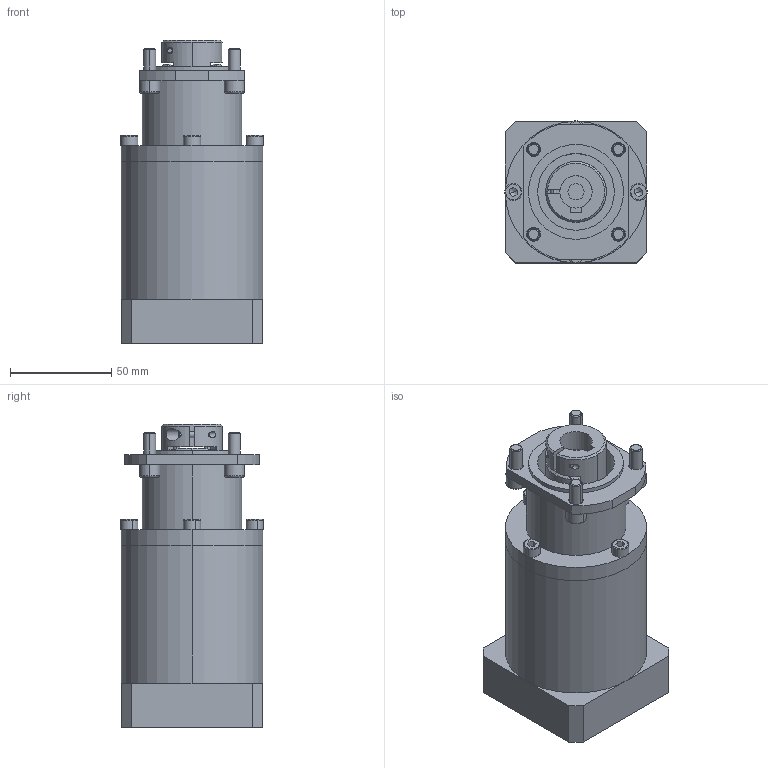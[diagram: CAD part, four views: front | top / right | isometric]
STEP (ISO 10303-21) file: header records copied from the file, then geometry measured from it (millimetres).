
FILE_DESCRIPTION (( 'STEP AP203' ), '1' );
FILE_NAME ('MAF060_MKU060_MPG60.STEP', '2013-09-30T13:41:11', ( 'Install' ), ( '' ), 'SwSTEP 2.0', 'SolidWorks 2013', '' );
FILE_SCHEMA (( 'CONFIG_CONTROL_DESIGN' ));
Length unit declared in the file: millimetre
Products named in the file (1): MAF060_MKU060_MPG60
Bounding box: 70.49 x 70.49 x 150 mm (x, y, z)
Volume: 451577.4 mm3; surface area: 72813.9 mm2
Topology: 15 solids, 15 shells, 439 faces, 1014 edges, 621 vertices
Faces by surface type: cylinder 160, plane 159, cone 80, torus 40
Entity records: 12972 total; most frequent: CARTESIAN_POINT 2783, DIRECTION 2257, ORIENTED_EDGE 1980, EDGE_CURVE 990, AXIS2_PLACEMENT_3D 907, VERTEX_POINT 621, EDGE_LOOP 507, CIRCLE 467
